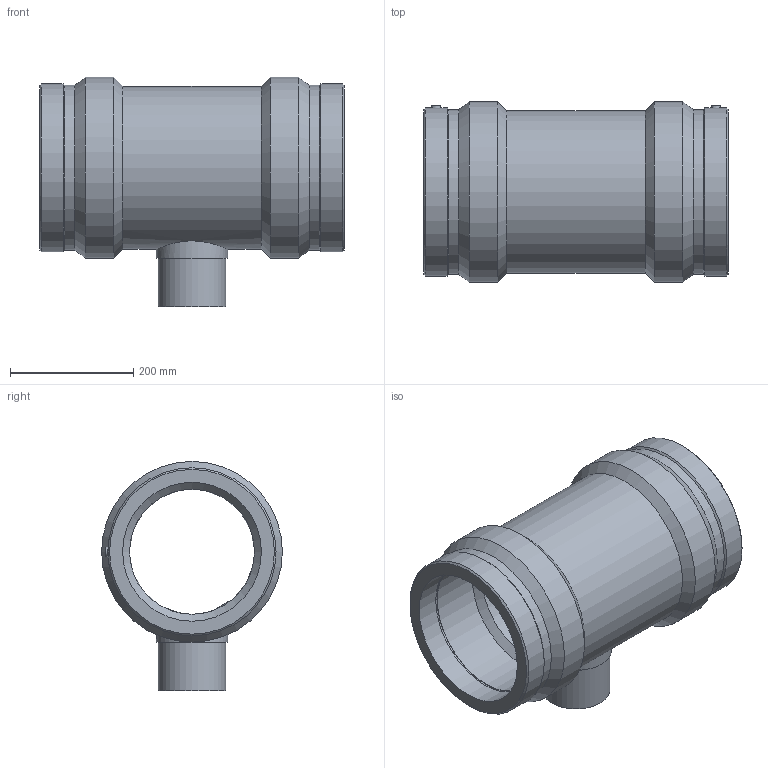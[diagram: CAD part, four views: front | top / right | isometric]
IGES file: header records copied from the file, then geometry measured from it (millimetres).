
Global section: file name: 491404225110.ipt; native system: Autodesk Inventor 2015; preprocessor: unknown; author: KIM; date: 20190909.112903; units: millimetre
Bounding box: 494 x 293 x 371.5 mm (x, y, z)
Volume: 11241740.2 mm3; surface area: 876267.7 mm2
Topology: 1 solids, 1 shells, 45 faces, 101 edges, 66 vertices
Faces by surface type: plane 12, revolution 12, cylinder 11, cone 10
Full cylindrical faces by diameter (mm): 4 x2, 110 x1, 115.5 x1, 263.7 x1, 267.04 x2, 272.49 x2, 293 x2
